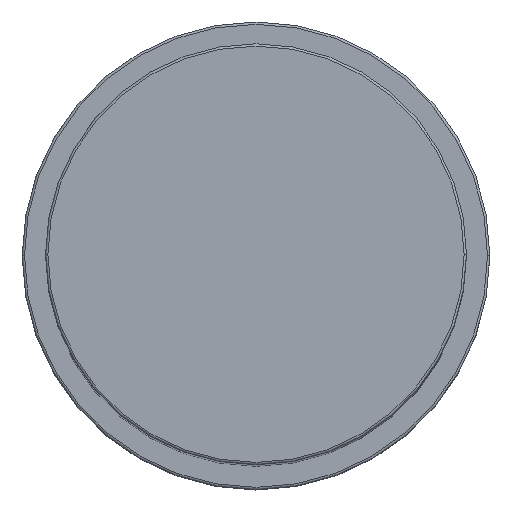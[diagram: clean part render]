
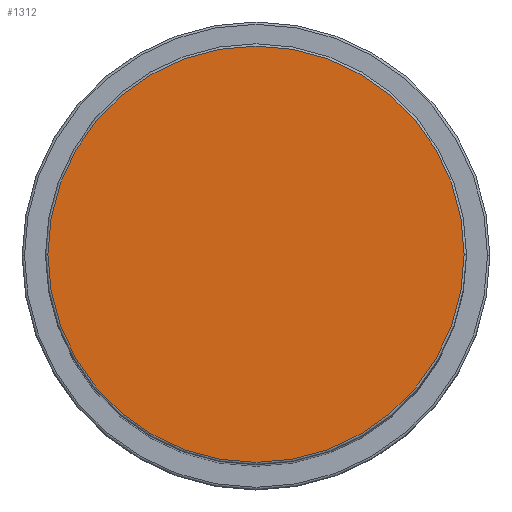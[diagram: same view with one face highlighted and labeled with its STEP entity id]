
A CAD part, top view. The second image highlights one B-rep face of the part: STEP entity #1312.
In plain terms, the highlighted planar face has unit normal (0, 0, 1).
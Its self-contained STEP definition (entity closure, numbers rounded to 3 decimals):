
#133 = AXIS2_PLACEMENT_3D ( 'NONE', #4659, #4159, #1319 ) ;
#505 = AXIS2_PLACEMENT_3D ( 'NONE', #1707, #2261, #2291 ) ;
#538 = EDGE_CURVE ( 'NONE', #7301, #3061, #6199, .T. ) ;
#1312 = ADVANCED_FACE ( 'NONE', ( #3942 ), #5028, .T. ) ;
#1319 = DIRECTION ( 'NONE',  ( 1., 0., 0. ) ) ;
#1383 = CARTESIAN_POINT ( 'NONE',  ( 0., 0., 214. ) ) ;
#1707 = CARTESIAN_POINT ( 'NONE',  ( 0., 0., 214. ) ) ;
#2261 = DIRECTION ( 'NONE',  ( 0., 0., 1. ) ) ;
#2291 = DIRECTION ( 'NONE',  ( 1., 0., 0. ) ) ;
#2501 = DIRECTION ( 'NONE',  ( 1., 0., 0. ) ) ;
#2629 = ORIENTED_EDGE ( 'NONE', *, *, #538, .T. ) ;
#2951 = CARTESIAN_POINT ( 'NONE',  ( -44.5, 0., 214. ) ) ;
#3061 = VERTEX_POINT ( 'NONE', #2951 ) ;
#3119 = DIRECTION ( 'NONE',  ( 0., 0., 1. ) ) ;
#3578 = ORIENTED_EDGE ( 'NONE', *, *, #6787, .T. ) ;
#3942 = FACE_OUTER_BOUND ( 'NONE', #7095, .T. ) ;
#4159 = DIRECTION ( 'NONE',  ( 0., 0., 1. ) ) ;
#4257 = CIRCLE ( 'NONE', #133, 44.5 ) ;
#4659 = CARTESIAN_POINT ( 'NONE',  ( 0., 0., 214. ) ) ;
#5028 = PLANE ( 'NONE',  #505 ) ;
#6199 = CIRCLE ( 'NONE', #6311, 44.5 ) ;
#6223 = CARTESIAN_POINT ( 'NONE',  ( 44.5, 0., 214. ) ) ;
#6311 = AXIS2_PLACEMENT_3D ( 'NONE', #1383, #3119, #2501 ) ;
#6787 = EDGE_CURVE ( 'NONE', #3061, #7301, #4257, .T. ) ;
#7095 = EDGE_LOOP ( 'NONE', ( #2629, #3578 ) ) ;
#7301 = VERTEX_POINT ( 'NONE', #6223 ) ;
